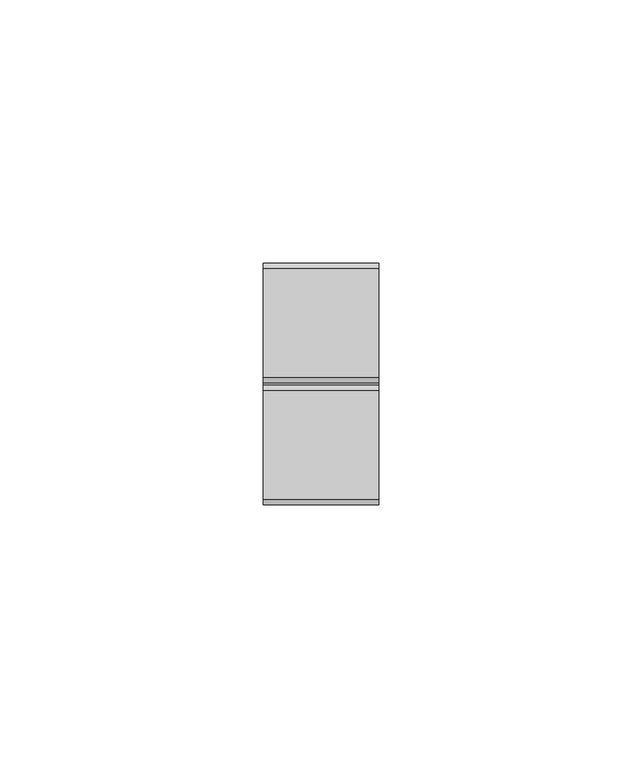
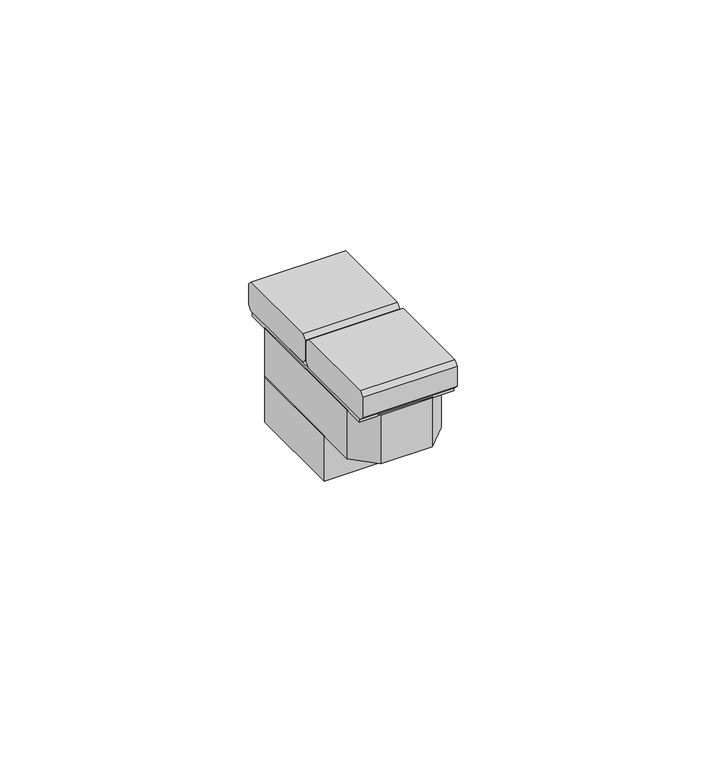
"""IFC4 building model written with IfcOpenShell, lengths in millimetres: proxy geometry, L4038R LI Pulsante NO portalampada rosso : L4038R LI Pulsante NO Portalampada rosso."""

from ifc_helpers import new_model, si_unit, frame, origin, place, context, project, spatial, polyline, outline, extrude, source, transform, mapped, element, save


def electrical_fixtures_2e6d9e1e(model_context):
    return source(origin(), model_context, "Body", "SweptSolid", [
        extrude(outline(polyline([(-22.0, 3.0), (-22.9899495, 3.9899495), (-22.9899495, 8.9899495), (-22.0, 9.979899), (-1.2399495, 9.979899), (-0.25, 8.9899495), (-0.25, 3.9899495), (-1.2399495, 3.0), (-22.0, 3.0)])), frame((-11.0, 0.0, 0.0), z_axis=(1.0, 0.0, 0.0), x_axis=(0.0, 1.0, 0.0)), (0.0, 0.0, 1.0), 22.0),
        extrude(outline(polyline([(22.0, 3.0), (1.2399495, 3.0), (0.25, 3.9899495), (0.25, 8.9899495), (1.2399495, 9.979899), (22.0, 9.979899), (22.9899495, 8.9899495), (22.9899495, 3.9899495), (22.0, 3.0)])), frame((-11.0, 0.0, 0.0), z_axis=(1.0, 0.0, 0.0), x_axis=(0.0, 1.0, 0.0)), (0.0, 0.0, 1.0), 22.0),
        extrude(outline(polyline([(-11.0, -7.5), (-11.0, 16.5), (-9.0, 18.5), (9.0, 18.5), (11.0, 16.5), (11.0, -7.5), (-11.0, -7.5)])), frame((0.0, 0.0, -21.0), z_axis=(0.0, 0.0, 1.0), x_axis=(1.0, 0.0, 0.0)), (0.0, 0.0, 1.0), 11.0),
        extrude(outline(polyline([(11.0, -16.5), (6.0, -21.5), (-6.0, -21.5), (-11.0, -16.5), (-11.0, 16.5), (-6.0, 21.5), (6.0, 21.5), (11.0, 16.5), (11.0, -16.5)])), frame((0.0, 0.0, -10.0), z_axis=(0.0, 0.0, 1.0), x_axis=(1.0, 0.0, 0.0)), (0.0, 0.0, 1.0), 12.0),
        extrude(outline(polyline([(11.0, -21.5), (-11.0, -21.5), (-11.0, 21.5), (11.0, 21.5), (11.0, -21.5)])), frame((0.0, 0.0, 2.0), z_axis=(0.0, 0.0, 1.0), x_axis=(1.0, 0.0, 0.0)), (0.0, 0.0, 1.0), 1.0),
    ])


if __name__ == "__main__":
    model = new_model("IFC4")
    model_context = context("Model", 3, world=origin())
    ifc_project = project(units=[si_unit("LENGTHUNIT", "METRE", prefix="MILLI")], contexts=[model_context])
    site = spatial("IfcSite", under=ifc_project)
    building = spatial("IfcBuilding", under=site)
    placement = place(None, origin())
    electrical_fixtures_shape = electrical_fixtures_2e6d9e1e(model_context)
    element("IfcBuildingElementProxy", 1, Name="L4038R LI Pulsante NO portalampada rosso : L4038R LI Pulsante NO Portalampada rosso", ObjectType="L4038R LI Pulsante NO portalampada rosso : L4038R LI Pulsante NO Portalampada rosso", at=placement, inside=building, context=model_context, shape_type="MappedRepresentation", body=[
        mapped(electrical_fixtures_shape, transform((0.0, 0.0, 0.0), x_axis=(1.0, 0.0, 0.0), y_axis=(0.0, 1.0, 0.0), z_axis=(0.0, 0.0, 1.0))),
    ])
    save(model, "model.ifc")
